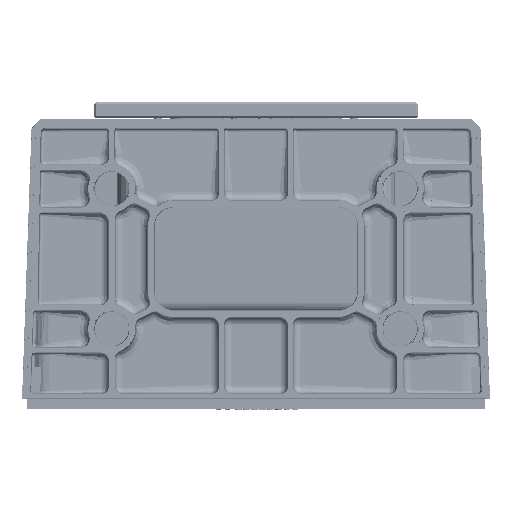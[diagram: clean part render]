
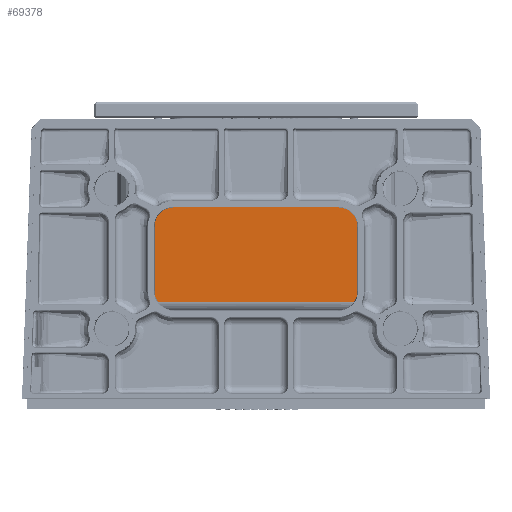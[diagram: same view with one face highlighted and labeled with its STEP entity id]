
A CAD part, front view. The second image highlights one B-rep face of the part: STEP entity #69378.
In plain terms, the highlighted planar face has unit normal (0, -1, -0.018).
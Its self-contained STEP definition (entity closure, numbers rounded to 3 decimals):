
#28068=DIRECTION('',(-1.,0.,0.));
#28069=VECTOR('',#28068,59.);
#28070=CARTESIAN_POINT('',(29.5,-159.843,26.009));
#28071=LINE('',#28070,#28069);
#28072=DIRECTION('',(0.,0.017,-1.));
#28073=VECTOR('',#28072,36.812);
#28074=CARTESIAN_POINT('',(29.5,-159.843,26.009));
#28075=LINE('',#28074,#28073);
#28076=DIRECTION('',(-1.,0.,0.));
#28077=VECTOR('',#28076,59.);
#28078=CARTESIAN_POINT('',(29.5,-159.201,-10.798));
#28079=LINE('',#28078,#28077);
#28080=DIRECTION('',(0.,0.017,-1.));
#28081=VECTOR('',#28080,36.812);
#28082=CARTESIAN_POINT('',(-29.5,-159.843,26.009));
#28083=LINE('',#28082,#28081);
#50588=CARTESIAN_POINT('',(29.5,-159.201,-10.798));
#50590=VERTEX_POINT('',#50588);
#50591=CARTESIAN_POINT('',(-29.5,-159.201,-10.798));
#50592=VERTEX_POINT('',#50591);
#50672=CARTESIAN_POINT('',(29.5,-159.843,26.009));
#50674=VERTEX_POINT('',#50672);
#50677=CARTESIAN_POINT('',(-29.5,-159.843,26.009));
#50678=VERTEX_POINT('',#50677);
#69366=CARTESIAN_POINT('',(-33.62,-160.,
34.956));
#69367=DIRECTION('',(0.,-1.,-0.017));
#69368=DIRECTION('',(1.,0.,0.));
#69369=AXIS2_PLACEMENT_3D('',#69366,#69367,#69368);
#69370=PLANE('',#69369);
#69371=ORIENTED_EDGE('',*,*,#69360,.F.);
#69372=ORIENTED_EDGE('',*,*,#68900,.T.);
#69373=ORIENTED_EDGE('',*,*,#68964,.T.);
#69375=ORIENTED_EDGE('',*,*,#69374,.F.);
#69376=EDGE_LOOP('',(#69371,#69372,#69373,#69375));
#69377=FACE_OUTER_BOUND('',#69376,.F.);
#69378=ADVANCED_FACE('',(#69377),#69370,.T.);
#68900=EDGE_CURVE('',#50674,#50590,#28075,.T.);
#68964=EDGE_CURVE('',#50590,#50592,#28079,.T.);
#69360=EDGE_CURVE('',#50674,#50678,#28071,.T.);
#69374=EDGE_CURVE('',#50678,#50592,#28083,.T.);
